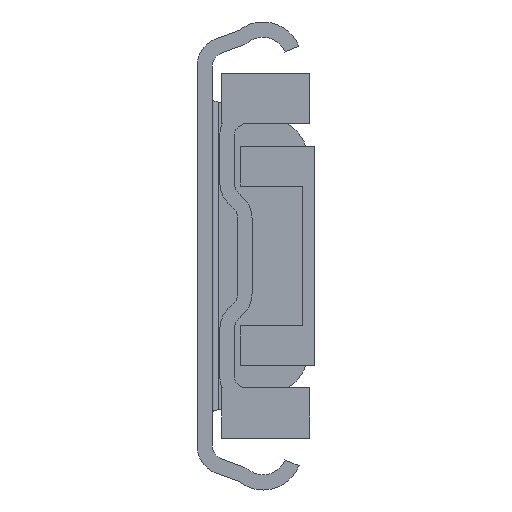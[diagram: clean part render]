
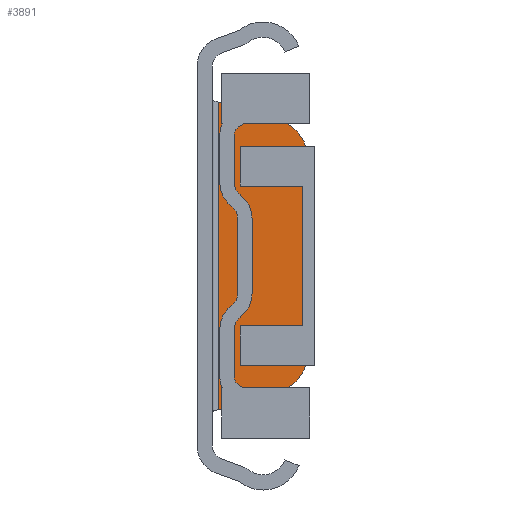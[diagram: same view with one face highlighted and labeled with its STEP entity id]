
A CAD part, front view. The second image highlights one B-rep face of the part: STEP entity #3891.
In plain terms, the highlighted planar face has unit normal (0, -1, 0).
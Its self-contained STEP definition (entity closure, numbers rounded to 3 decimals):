
#337=LINE('',#6689,#720);
#338=LINE('',#6694,#721);
#339=LINE('',#6698,#722);
#340=LINE('',#6700,#723);
#720=VECTOR('',#5538,1000.);
#721=VECTOR('',#5541,1000.);
#722=VECTOR('',#5544,1000.);
#723=VECTOR('',#5545,1000.);
#887=PLANE('',#4610);
#1735=ORIENTED_EDGE('',*,*,#2445,.F.);
#1736=ORIENTED_EDGE('',*,*,#2446,.F.);
#1737=ORIENTED_EDGE('',*,*,#2447,.F.);
#1738=ORIENTED_EDGE('',*,*,#2448,.F.);
#1739=ORIENTED_EDGE('',*,*,#2449,.F.);
#1740=ORIENTED_EDGE('',*,*,#2450,.F.);
#2445=EDGE_CURVE('',#2874,#2875,#337,.T.);
#2446=EDGE_CURVE('',#2876,#2874,#3094,.F.);
#2447=EDGE_CURVE('',#2877,#2876,#338,.T.);
#2448=EDGE_CURVE('',#2878,#2877,#3095,.F.);
#2449=EDGE_CURVE('',#2879,#2878,#339,.T.);
#2450=EDGE_CURVE('',#2875,#2879,#340,.T.);
#2874=VERTEX_POINT('',#6690);
#2875=VERTEX_POINT('',#6691);
#2876=VERTEX_POINT('',#6693);
#2877=VERTEX_POINT('',#6695);
#2878=VERTEX_POINT('',#6697);
#2879=VERTEX_POINT('',#6699);
#3094=CIRCLE('',#4611,8.);
#3095=CIRCLE('',#4612,8.);
#3327=EDGE_LOOP('',(#1735,#1736,#1737,#1738,#1739,#1740));
#3584=FACE_BOUND('',#3327,.T.);
#3891=ADVANCED_FACE('',(#3584),#887,.T.);
#4610=AXIS2_PLACEMENT_3D('',#6688,#5536,#5537);
#4611=AXIS2_PLACEMENT_3D('',#6692,#5539,#5540);
#4612=AXIS2_PLACEMENT_3D('',#6696,#5542,#5543);
#5536=DIRECTION('',(0.,-1.,0.));
#5537=DIRECTION('',(0.,0.,-1.));
#5538=DIRECTION('',(-0.966,0.,-0.259));
#5539=DIRECTION('',(0.,-1.,0.));
#5540=DIRECTION('',(0.,0.,-1.));
#5541=DIRECTION('',(0.,0.,-1.));
#5542=DIRECTION('',(0.,-1.,0.));
#5543=DIRECTION('',(0.,0.,-1.));
#5544=DIRECTION('',(0.966,0.,-0.259));
#5545=DIRECTION('',(0.,0.,1.));
#6688=CARTESIAN_POINT('',(12.9,759.5,14.965));
#6689=CARTESIAN_POINT('',(22.316,759.5,-20.174));
#6690=CARTESIAN_POINT('',(12.471,759.5,-22.812));
#6691=CARTESIAN_POINT('',(3.5,759.5,-25.216));
#6692=CARTESIAN_POINT('',(10.4,759.5,-15.085));
#6693=CARTESIAN_POINT('',(18.4,759.5,-15.085));
#6694=CARTESIAN_POINT('',(18.4,759.5,14.965));
#6695=CARTESIAN_POINT('',(18.4,759.5,15.085));
#6696=CARTESIAN_POINT('',(10.4,759.5,15.085));
#6697=CARTESIAN_POINT('',(12.471,759.5,22.812));
#6698=CARTESIAN_POINT('',(14.833,759.5,22.179));
#6699=CARTESIAN_POINT('',(3.5,759.5,25.216));
#6700=CARTESIAN_POINT('',(3.5,759.5,-25.766));
